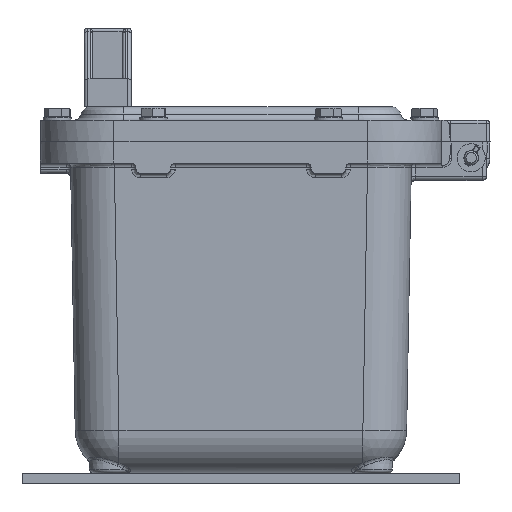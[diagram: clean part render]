
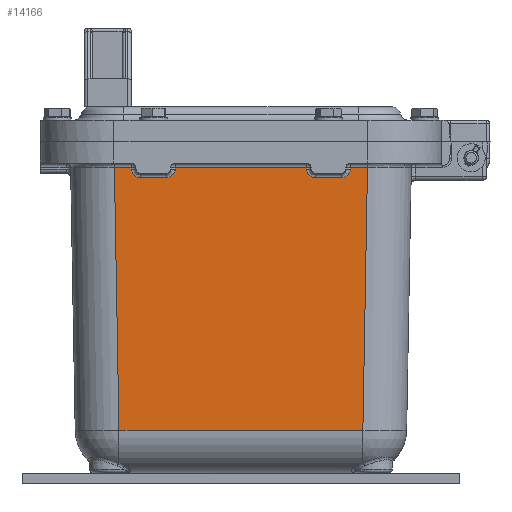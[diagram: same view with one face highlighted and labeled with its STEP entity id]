
A CAD part, front view. The second image highlights one B-rep face of the part: STEP entity #14166.
In plain terms, the highlighted planar face has unit normal (0, -1, -0.018).
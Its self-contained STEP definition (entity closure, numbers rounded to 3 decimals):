
#9809=CARTESIAN_POINT('',(-62.457,-197.748,-14.456));
#9810=VERTEX_POINT('',#9809);
#9865=CARTESIAN_POINT('',(-62.438,-197.729,-15.544));
#9866=VERTEX_POINT('',#9865);
#9874=CARTESIAN_POINT('',(-57.439,-197.643,-20.456));
#9875=VERTEX_POINT('',#9874);
#9876=CARTESIAN_POINT('',(-57.439,-197.73,-15.456));
#9877=DIRECTION('',(0.,-1.,-0.017));
#9878=DIRECTION('',(0.,0.017,-1.));
#9879=AXIS2_PLACEMENT_3D('',#9876,#9877,#9878);
#9880=ELLIPSE('',#9879,5.001,5.0);
#9881=EDGE_CURVE('',#9866,#9875,#9880,.T.);
#9899=CARTESIAN_POINT('',(-62.457,-197.748,-14.456));
#9900=DIRECTION('',(0.017,0.017,-1.));
#9901=VECTOR('',#9900,1.088);
#9902=LINE('',#9899,#9901);
#9903=EDGE_CURVE('',#9810,#9866,#9902,.T.);
#9976=CARTESIAN_POINT('',(-42.561,-197.643,-20.456));
#9977=VERTEX_POINT('',#9976);
#9978=CARTESIAN_POINT('',(-37.562,-197.729,-15.544));
#9979=VERTEX_POINT('',#9978);
#9980=CARTESIAN_POINT('',(-42.561,-197.73,-15.456));
#9981=DIRECTION('',(0.0,-1.,-0.017));
#9982=DIRECTION('',(0.,0.017,-1.));
#9983=AXIS2_PLACEMENT_3D('',#9980,#9981,#9982);
#9984=ELLIPSE('',#9983,5.001,5.);
#9985=EDGE_CURVE('',#9977,#9979,#9984,.T.);
#10109=CARTESIAN_POINT('',(-37.543,-197.748,-14.456));
#10110=VERTEX_POINT('',#10109);
#10165=CARTESIAN_POINT('',(-37.562,-197.729,-15.544));
#10166=DIRECTION('',(0.017,-0.017,1.));
#10167=VECTOR('',#10166,1.088);
#10168=LINE('',#10165,#10167);
#10169=EDGE_CURVE('',#9979,#10110,#10168,.T.);
#10262=CARTESIAN_POINT('',(37.543,-197.748,-14.456));
#10263=VERTEX_POINT('',#10262);
#10287=CARTESIAN_POINT('',(-37.543,-197.748,-14.456));
#10288=DIRECTION('',(1.0,0.0,0.0));
#10289=VECTOR('',#10288,75.087);
#10290=LINE('',#10287,#10289);
#10291=EDGE_CURVE('',#10110,#10263,#10290,.T.);
#10375=CARTESIAN_POINT('',(37.562,-197.729,-15.544));
#10376=VERTEX_POINT('',#10375);
#10384=CARTESIAN_POINT('',(42.561,-197.643,-20.456));
#10385=VERTEX_POINT('',#10384);
#10386=CARTESIAN_POINT('',(42.561,-197.73,-15.456));
#10387=DIRECTION('',(0.,-1.,-0.017));
#10388=DIRECTION('',(0.,0.017,-1.));
#10389=AXIS2_PLACEMENT_3D('',#10386,#10387,#10388);
#10390=ELLIPSE('',#10389,5.001,5.);
#10391=EDGE_CURVE('',#10376,#10385,#10390,.T.);
#10409=CARTESIAN_POINT('',(37.543,-197.748,-14.456));
#10410=DIRECTION('',(0.017,0.017,-1.));
#10411=VECTOR('',#10410,1.088);
#10412=LINE('',#10409,#10411);
#10413=EDGE_CURVE('',#10263,#10376,#10412,.T.);
#10486=CARTESIAN_POINT('',(57.439,-197.643,-20.456));
#10487=VERTEX_POINT('',#10486);
#10488=CARTESIAN_POINT('',(62.438,-197.729,-15.544));
#10489=VERTEX_POINT('',#10488);
#10490=CARTESIAN_POINT('',(57.439,-197.73,-15.456));
#10491=DIRECTION('',(0.,-1.,-0.017));
#10492=DIRECTION('',(0.,0.017,-1.));
#10493=AXIS2_PLACEMENT_3D('',#10490,#10491,#10492);
#10494=ELLIPSE('',#10493,5.001,5.);
#10495=EDGE_CURVE('',#10487,#10489,#10494,.T.);
#10653=CARTESIAN_POINT('',(62.457,-197.748,-14.456));
#10654=VERTEX_POINT('',#10653);
#10709=CARTESIAN_POINT('',(62.438,-197.729,-15.544));
#10710=DIRECTION('',(0.017,-0.017,1.));
#10711=VECTOR('',#10710,1.088);
#10712=LINE('',#10709,#10711);
#10713=EDGE_CURVE('',#10489,#10654,#10712,.T.);
#10893=CARTESIAN_POINT('',(72.251,-197.748,-14.456));
#10894=VERTEX_POINT('',#10893);
#10926=CARTESIAN_POINT('',(62.457,-197.748,-14.456));
#10927=DIRECTION('',(1.0,0.0,0.0));
#10928=VECTOR('',#10927,9.795);
#10929=LINE('',#10926,#10928);
#10930=EDGE_CURVE('',#10654,#10894,#10929,.T.);
#13678=CARTESIAN_POINT('',(42.561,-197.643,-20.456));
#13679=DIRECTION('',(1.0,0.0,0.0));
#13680=VECTOR('',#13679,14.877);
#13681=LINE('',#13678,#13680);
#13682=EDGE_CURVE('',#10385,#10487,#13681,.T.);
#13920=CARTESIAN_POINT('',(-57.439,-197.643,-20.456));
#13921=DIRECTION('',(1.0,0.0,0.0));
#13922=VECTOR('',#13921,14.877);
#13923=LINE('',#13920,#13922);
#13924=EDGE_CURVE('',#9875,#9977,#13923,.T.);
#13943=CARTESIAN_POINT('',(-72.251,-197.748,-14.456));
#13944=VERTEX_POINT('',#13943);
#13952=CARTESIAN_POINT('',(-72.251,-197.748,-14.456));
#13953=DIRECTION('',(1.0,0.0,0.0));
#13954=VECTOR('',#13953,9.795);
#13955=LINE('',#13952,#13954);
#13956=EDGE_CURVE('',#13944,#9810,#13955,.T.);
#14105=CARTESIAN_POINT('',(69.63,-195.126,-164.636));
#14106=VERTEX_POINT('',#14105);
#14107=CARTESIAN_POINT('',(72.251,-197.748,-14.456));
#14108=DIRECTION('',(-0.017,0.017,-1.));
#14109=VECTOR('',#14108,150.226);
#14110=LINE('',#14107,#14109);
#14111=EDGE_CURVE('',#10894,#14106,#14110,.T.);
#14131=CARTESIAN_POINT('',(-97.5,-198.,0.0));
#14132=DIRECTION('',(0.0,-1.,-0.017));
#14133=DIRECTION('',(-1.0,0.0,0.0));
#14134=AXIS2_PLACEMENT_3D('',#14131,#14132,#14133);
#14135=PLANE('',#14134);
#14136=ORIENTED_EDGE('',*,*,#10930,.F.);
#14137=ORIENTED_EDGE('',*,*,#10713,.F.);
#14138=ORIENTED_EDGE('',*,*,#10495,.F.);
#14139=ORIENTED_EDGE('',*,*,#13682,.F.);
#14140=ORIENTED_EDGE('',*,*,#10391,.F.);
#14141=ORIENTED_EDGE('',*,*,#10413,.F.);
#14142=ORIENTED_EDGE('',*,*,#10291,.F.);
#14143=ORIENTED_EDGE('',*,*,#10169,.F.);
#14144=ORIENTED_EDGE('',*,*,#9985,.F.);
#14145=ORIENTED_EDGE('',*,*,#13924,.F.);
#14146=ORIENTED_EDGE('',*,*,#9881,.F.);
#14147=ORIENTED_EDGE('',*,*,#9903,.F.);
#14148=ORIENTED_EDGE('',*,*,#13956,.F.);
#14149=CARTESIAN_POINT('',(-69.63,-195.126,-164.636));
#14150=VERTEX_POINT('',#14149);
#14151=CARTESIAN_POINT('',(-69.63,-195.126,-164.636));
#14152=DIRECTION('',(-0.017,-0.017,1.));
#14153=VECTOR('',#14152,150.226);
#14154=LINE('',#14151,#14153);
#14155=EDGE_CURVE('',#14150,#13944,#14154,.T.);
#14156=ORIENTED_EDGE('',*,*,#14155,.F.);
#14157=CARTESIAN_POINT('',(69.63,-195.126,-164.636));
#14158=DIRECTION('',(-1.0,0.0,0.0));
#14159=VECTOR('',#14158,139.26);
#14160=LINE('',#14157,#14159);
#14161=EDGE_CURVE('',#14106,#14150,#14160,.T.);
#14162=ORIENTED_EDGE('',*,*,#14161,.F.);
#14163=ORIENTED_EDGE('',*,*,#14111,.F.);
#14164=EDGE_LOOP('',(#14136,#14137,#14138,#14139,#14140,#14141,#14142,#14143,#14144,#14145,#14146,#14147,#14148,#14156,#14162,#14163));
#14165=FACE_OUTER_BOUND('',#14164,.T.);
#14166=ADVANCED_FACE('',(#14165),#14135,.T.);
